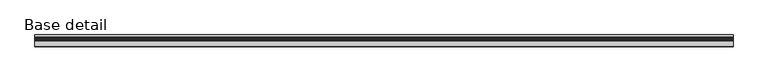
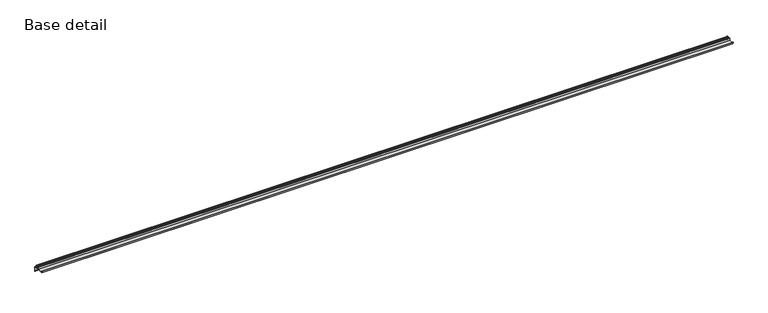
"""IFC4 building model written with IfcOpenShell, lengths in millimetres: beam geometry, QO-V-02_01 Base : Base detail."""

from ifc_helpers import new_model, si_unit, point, frame, frame_2d, origin, place, context, project, spatial, polyline, circle_curve, trimmed, segment, composite_curve, outline, extrude, source, transform, mapped, element, save


def base_detail_476fe2c5(model_context):
    return source(origin(), model_context, "Body", "SweptSolid", [
        extrude(outline(composite_curve([segment(polyline([(-34.6160805, -13.1475876), (-34.6160805, -14.6626133), (-35.9759407, -12.8497844), (-36.7759407, -12.8497844), (-36.7759407, -14.8513097), (-34.317153, -14.8513097), (-34.317153, -13.7830771), (-26.5392087, -13.7830771)]), True, "CONTINUOUS"), segment(trimmed(circle_curve(frame_2d((-26.5150144, -14.2824538)), 0.4999625), [point((-26.5392087, -13.7830771))], [point((-26.0150519, -14.2824538))], False, "CARTESIAN"), True, "CONTINUOUS"), segment(polyline([(-26.0150519, -14.2824538), (-26.0150519, -24.9962599), (-36.190378, -24.9962599)]), True, "CONTINUOUS"), segment(trimmed(circle_curve(frame_2d((-36.190378, -24.3962599)), 0.6), [point((-36.190378, -24.9962599))], [point((-36.790378, -24.3962599))], False, "CARTESIAN"), True, "CONTINUOUS"), segment(polyline([(-36.790378, -24.3962599), (-36.790378, -18.8577362), (-39.6058207, -18.8577362), (-39.6058207, -21.4563372), (-43.8493822, -19.9175879), (-40.3004498, -16.8943655), (-40.3004498, -8.1008097), (-43.8493822, -5.0775874), (-39.6058207, -3.538838), (-39.6058207, -6.137439), (-36.790378, -6.137439), (-36.790378, -0.5989153)]), True, "CONTINUOUS"), segment(trimmed(circle_curve(frame_2d((-36.190378, -0.5989153)), 0.6), [point((-36.790378, -0.5989153))], [point((-36.190378, 0.0010847))], False, "CARTESIAN"), True, "CONTINUOUS"), segment(polyline([(-36.190378, 0.0010847), (-26.0150519, 0.0010847), (-26.0150519, -10.7127214)]), True, "CONTINUOUS"), segment(trimmed(circle_curve(frame_2d((-26.5150144, -10.7127214)), 0.4999625), [point((-26.0150519, -10.7127214))], [point((-26.5392087, -11.2120981))], False, "CARTESIAN"), True, "CONTINUOUS"), segment(polyline([(-26.5392087, -11.2120981), (-34.317153, -11.2120981), (-34.317153, -10.1438655), (-36.7759407, -10.1438655), (-36.7759407, -12.1453908), (-35.9759407, -12.1453908), (-34.6160805, -10.3325619), (-34.6160805, -11.8475876), (-25.5027713, -11.8475876), (-25.5027713, -4.1794739), (-24.5783623, -2.6474985)]), True, "CONTINUOUS"), segment(trimmed(circle_curve(frame_2d((-24.3129396, -2.8076572)), 0.31), [point((-24.5783623, -2.6474985))], [point((-24.0029396, -2.8076572))], False, "CARTESIAN"), True, "CONTINUOUS"), segment(polyline([(-24.0029396, -2.8076572), (-24.0029396, -22.1876801)]), True, "CONTINUOUS"), segment(trimmed(circle_curve(frame_2d((-24.3129396, -22.1876801)), 0.31), [point((-24.0029396, -22.1876801))], [point((-24.5783623, -22.3478388))], False, "CARTESIAN"), True, "CONTINUOUS"), segment(polyline([(-24.5783623, -22.3478388), (-25.5027713, -20.8158634), (-25.5027713, -13.1475876), (-34.6160805, -13.1475876)]), True, "CONTINUOUS")], self_intersect=False)), frame((-6635.912075, 0.0, 0.0), z_axis=(1.0, 0.0, 0.0), x_axis=(0.0, 1.0, 0.0)), (0.0, 0.0, 1.0), 7124.412075),
        extrude(outline(polyline([(-55.0, 0.0), (-55.0, -25.0), (0.0, -29.8118765), (0.0, -79.8118765), (-17.6776695, -62.134207), (-17.1119841, -61.5685215), (-0.8, -77.8805056), (-0.8, -30.5449414), (-55.8, -25.7330649), (-55.8, -0.8), (-57.0, -0.8), (-57.0, -25.8), (-119.0315596, -25.8), (-121.5120749, -5.5978247), (-120.7180379, -5.5003292), (-118.3237794, -25.0), (-57.8, -25.0), (-57.8, 0.0), (-55.0, 0.0)])), frame((-6635.912075, 0.0, 0.0), z_axis=(1.0, 0.0, 0.0), x_axis=(0.0, 1.0, 0.0)), (0.0, 0.0, 1.0), 7124.412075),
    ])


if __name__ == "__main__":
    model = new_model("IFC4")
    model_context = context("Model", 3, world=origin())
    ifc_project = project(units=[si_unit("LENGTHUNIT", "METRE", prefix="MILLI")], contexts=[model_context])
    site = spatial("IfcSite", under=ifc_project)
    building = spatial("IfcBuilding", under=site)
    placement = place(None, origin())
    base_detail_shape = base_detail_476fe2c5(model_context)
    element("IfcBeam", 1, ObjectType="QO-V-02_01 Base : Base detail", at=placement, inside=building, context=model_context, shape_type="MappedRepresentation", body=[
        mapped(base_detail_shape, transform((0.0, 0.0, 0.0), x_axis=(1.0, 0.0, 0.0), y_axis=(0.0, 1.0, 0.0), z_axis=(0.0, 0.0, 1.0))),
    ])
    save(model, "model.ifc")
